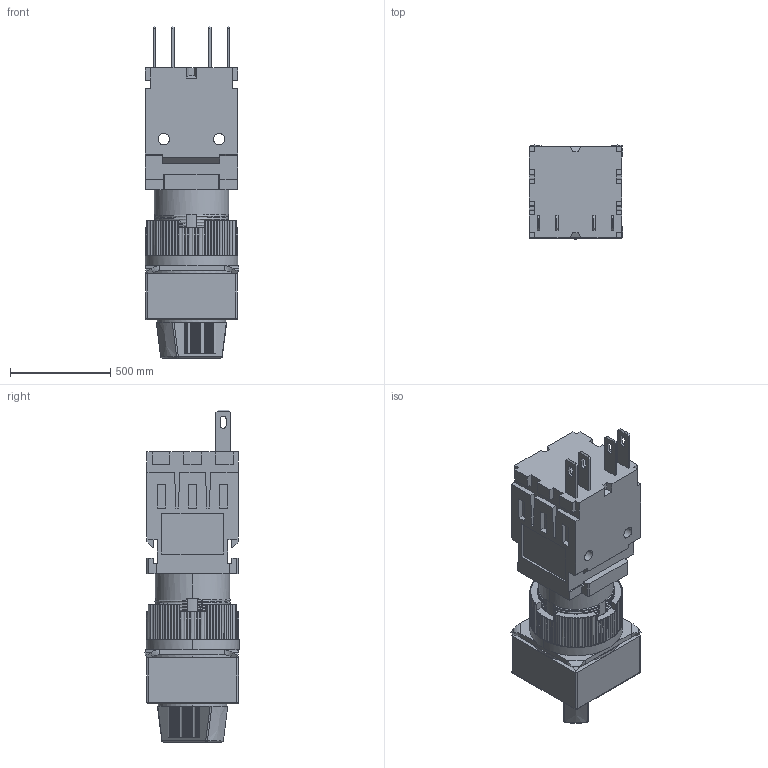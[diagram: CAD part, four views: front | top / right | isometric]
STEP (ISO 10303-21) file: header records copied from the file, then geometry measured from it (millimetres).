
FILE_DESCRIPTION((''),'2;1');
FILE_NAME('ASM0003_ASM','2016-06-03T',('Administrator'),(''),'PRO/ENGINEER BY PARAMETRIC TECHNOLOGY CORPORATION, 2012360','PRO/ENGINEER BY PARAMETRIC TECHNOLOGY CORPORATION, 2012360','');
FILE_SCHEMA(('CONFIG_CONTROL_DESIGN'));
Products named in the file (1): ASM0003_ASM
Bounding box: 467.82 x 468.42 x 1653.54 mm (x, y, z)
Volume: 229399350.4 mm3; surface area: 4466768 mm2
Topology: 1 solids, 7 shells, 1034 faces, 2885 edges, 1873 vertices
Faces by surface type: plane 493, cylinder 410, bspline 119, sphere 8, cone 2, torus 2
Entity records: 50886 total; most frequent: CARTESIAN_POINT 25003, ORIENTED_EDGE 5770, DIRECTION 4976, EDGE_CURVE 2885, VERTEX_POINT 1873, AXIS2_PLACEMENT_3D 1738, VECTOR 1500, LINE 1500
